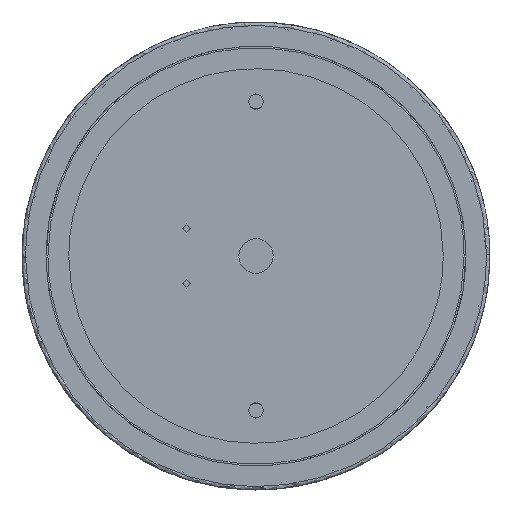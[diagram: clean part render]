
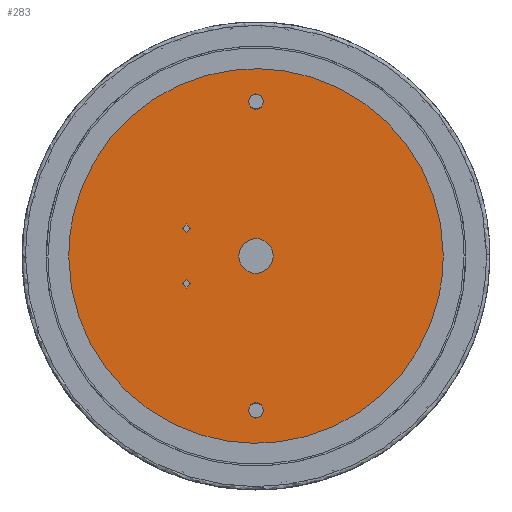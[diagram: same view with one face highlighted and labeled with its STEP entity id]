
A CAD part, left-side view. The second image highlights one B-rep face of the part: STEP entity #283.
In plain terms, the highlighted planar face has unit normal (-1, 0, 0).
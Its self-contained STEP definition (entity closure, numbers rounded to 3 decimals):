
#25=FACE_BOUND('',#562,.T.);
#26=FACE_BOUND('',#563,.T.);
#27=FACE_BOUND('',#564,.T.);
#28=FACE_BOUND('',#565,.T.);
#29=FACE_BOUND('',#566,.T.);
#205=PLANE('',#2198);
#283=ADVANCED_FACE('',(#419,#25,#26,#27,#28,#29),#205,.T.);
#419=FACE_OUTER_BOUND('',#561,.T.);
#561=EDGE_LOOP('',(#871,#872));
#562=EDGE_LOOP('',(#873,#874));
#563=EDGE_LOOP('',(#875,#876));
#564=EDGE_LOOP('',(#877,#878));
#565=EDGE_LOOP('',(#879,#880));
#566=EDGE_LOOP('',(#881,#882));
#871=ORIENTED_EDGE('',*,*,#1463,.F.);
#872=ORIENTED_EDGE('',*,*,#1429,.F.);
#873=ORIENTED_EDGE('',*,*,#1467,.F.);
#874=ORIENTED_EDGE('',*,*,#1433,.F.);
#875=ORIENTED_EDGE('',*,*,#1470,.F.);
#876=ORIENTED_EDGE('',*,*,#1436,.F.);
#877=ORIENTED_EDGE('',*,*,#1491,.F.);
#878=ORIENTED_EDGE('',*,*,#1457,.F.);
#879=ORIENTED_EDGE('',*,*,#1494,.F.);
#880=ORIENTED_EDGE('',*,*,#1460,.F.);
#881=ORIENTED_EDGE('',*,*,#1488,.F.);
#882=ORIENTED_EDGE('',*,*,#1454,.F.);
#1429=EDGE_CURVE('',#1921,#1943,#1702,.T.);
#1433=EDGE_CURVE('',#1922,#1945,#1705,.T.);
#1436=EDGE_CURVE('',#1923,#1947,#1707,.T.);
#1454=EDGE_CURVE('',#1926,#1959,#1719,.T.);
#1457=EDGE_CURVE('',#1924,#1961,#1721,.T.);
#1460=EDGE_CURVE('',#1925,#1963,#1723,.T.);
#1463=EDGE_CURVE('',#1943,#1921,#1724,.T.);
#1467=EDGE_CURVE('',#1945,#1922,#1727,.T.);
#1470=EDGE_CURVE('',#1947,#1923,#1729,.T.);
#1488=EDGE_CURVE('',#1959,#1926,#1741,.T.);
#1491=EDGE_CURVE('',#1961,#1924,#1743,.T.);
#1494=EDGE_CURVE('',#1963,#1925,#1745,.T.);
#1702=(
BOUNDED_CURVE()
B_SPLINE_CURVE(2,(#5714,#5715,#5716,#5717,#5718),.UNSPECIFIED.,.F.,.F.)
B_SPLINE_CURVE_WITH_KNOTS((3,2,3),(0.,89.3,178.6),
 .UNSPECIFIED.)
CURVE()
GEOMETRIC_REPRESENTATION_ITEM()
RATIONAL_B_SPLINE_CURVE((1.,0.707,1.,0.707,1.))
REPRESENTATION_ITEM('')
);
#1705=(
BOUNDED_CURVE()
B_SPLINE_CURVE(2,(#5731,#5732,#5733,#5734,#5735),.UNSPECIFIED.,.F.,.F.)
B_SPLINE_CURVE_WITH_KNOTS((3,2,3),(0.,3.534,7.069),
 .UNSPECIFIED.)
CURVE()
GEOMETRIC_REPRESENTATION_ITEM()
RATIONAL_B_SPLINE_CURVE((1.,0.707,1.,0.707,1.))
REPRESENTATION_ITEM('')
);
#1707=(
BOUNDED_CURVE()
B_SPLINE_CURVE(2,(#5743,#5744,#5745,#5746,#5747),.UNSPECIFIED.,.F.,.F.)
B_SPLINE_CURVE_WITH_KNOTS((3,2,3),(0.,3.534,7.069),
 .UNSPECIFIED.)
CURVE()
GEOMETRIC_REPRESENTATION_ITEM()
RATIONAL_B_SPLINE_CURVE((1.,0.707,1.,0.707,1.))
REPRESENTATION_ITEM('')
);
#1719=(
BOUNDED_CURVE()
B_SPLINE_CURVE(2,(#5815,#5816,#5817,#5818,#5819),.UNSPECIFIED.,.F.,.F.)
B_SPLINE_CURVE_WITH_KNOTS((3,2,3),(0.,7.854,15.708),
 .UNSPECIFIED.)
CURVE()
GEOMETRIC_REPRESENTATION_ITEM()
RATIONAL_B_SPLINE_CURVE((1.,0.707,1.,0.707,1.))
REPRESENTATION_ITEM('')
);
#1721=(
BOUNDED_CURVE()
B_SPLINE_CURVE(2,(#5827,#5828,#5829,#5830,#5831),.UNSPECIFIED.,.F.,.F.)
B_SPLINE_CURVE_WITH_KNOTS((3,2,3),(0.,1.963,3.927),
 .UNSPECIFIED.)
CURVE()
GEOMETRIC_REPRESENTATION_ITEM()
RATIONAL_B_SPLINE_CURVE((1.,0.707,1.,0.707,1.))
REPRESENTATION_ITEM('')
);
#1723=(
BOUNDED_CURVE()
B_SPLINE_CURVE(2,(#5839,#5840,#5841,#5842,#5843),.UNSPECIFIED.,.F.,.F.)
B_SPLINE_CURVE_WITH_KNOTS((3,2,3),(0.,1.963,3.927),
 .UNSPECIFIED.)
CURVE()
GEOMETRIC_REPRESENTATION_ITEM()
RATIONAL_B_SPLINE_CURVE((1.,0.707,1.,0.707,1.))
REPRESENTATION_ITEM('')
);
#1724=(
BOUNDED_CURVE()
B_SPLINE_CURVE(2,(#5848,#5849,#5850,#5851,#5852),.UNSPECIFIED.,.F.,.F.)
B_SPLINE_CURVE_WITH_KNOTS((3,2,3),(178.6,267.899,357.199),
 .UNSPECIFIED.)
CURVE()
GEOMETRIC_REPRESENTATION_ITEM()
RATIONAL_B_SPLINE_CURVE((1.,0.707,1.,0.707,1.))
REPRESENTATION_ITEM('')
);
#1727=(
BOUNDED_CURVE()
B_SPLINE_CURVE(2,(#5865,#5866,#5867,#5868,#5869),.UNSPECIFIED.,.F.,.F.)
B_SPLINE_CURVE_WITH_KNOTS((3,2,3),(7.069,10.603,14.137),
 .UNSPECIFIED.)
CURVE()
GEOMETRIC_REPRESENTATION_ITEM()
RATIONAL_B_SPLINE_CURVE((1.,0.707,1.,0.707,1.))
REPRESENTATION_ITEM('')
);
#1729=(
BOUNDED_CURVE()
B_SPLINE_CURVE(2,(#5877,#5878,#5879,#5880,#5881),.UNSPECIFIED.,.F.,.F.)
B_SPLINE_CURVE_WITH_KNOTS((3,2,3),(7.069,10.603,14.137),
 .UNSPECIFIED.)
CURVE()
GEOMETRIC_REPRESENTATION_ITEM()
RATIONAL_B_SPLINE_CURVE((1.,0.707,1.,0.707,1.))
REPRESENTATION_ITEM('')
);
#1741=(
BOUNDED_CURVE()
B_SPLINE_CURVE(2,(#5949,#5950,#5951,#5952,#5953),.UNSPECIFIED.,.F.,.F.)
B_SPLINE_CURVE_WITH_KNOTS((3,2,3),(15.708,23.562,31.416),
 .UNSPECIFIED.)
CURVE()
GEOMETRIC_REPRESENTATION_ITEM()
RATIONAL_B_SPLINE_CURVE((1.,0.707,1.,0.707,1.))
REPRESENTATION_ITEM('')
);
#1743=(
BOUNDED_CURVE()
B_SPLINE_CURVE(2,(#5961,#5962,#5963,#5964,#5965),.UNSPECIFIED.,.F.,.F.)
B_SPLINE_CURVE_WITH_KNOTS((3,2,3),(3.927,5.89,7.854),
 .UNSPECIFIED.)
CURVE()
GEOMETRIC_REPRESENTATION_ITEM()
RATIONAL_B_SPLINE_CURVE((1.,0.707,1.,0.707,1.))
REPRESENTATION_ITEM('')
);
#1745=(
BOUNDED_CURVE()
B_SPLINE_CURVE(2,(#5973,#5974,#5975,#5976,#5977),.UNSPECIFIED.,.F.,.F.)
B_SPLINE_CURVE_WITH_KNOTS((3,2,3),(3.927,5.89,7.854),
 .UNSPECIFIED.)
CURVE()
GEOMETRIC_REPRESENTATION_ITEM()
RATIONAL_B_SPLINE_CURVE((1.,0.707,1.,0.707,1.))
REPRESENTATION_ITEM('')
);
#1921=VERTEX_POINT('',#5670);
#1922=VERTEX_POINT('',#5671);
#1923=VERTEX_POINT('',#5672);
#1924=VERTEX_POINT('',#5673);
#1925=VERTEX_POINT('',#5674);
#1926=VERTEX_POINT('',#5675);
#1943=VERTEX_POINT('',#5692);
#1945=VERTEX_POINT('',#5694);
#1947=VERTEX_POINT('',#5696);
#1959=VERTEX_POINT('',#5708);
#1961=VERTEX_POINT('',#5710);
#1963=VERTEX_POINT('',#5712);
#2198=AXIS2_PLACEMENT_3D('',#5441,#2230,$);
#2230=DIRECTION('',(-1.,0.,0.));
#5441=CARTESIAN_POINT('',(-8.5,135.812,0.868));
#5670=CARTESIAN_POINT('',(-8.5,124.322,-67.472));
#5671=CARTESIAN_POINT('',(-8.5,69.722,-111.972));
#5672=CARTESIAN_POINT('',(-8.5,69.722,-22.972));
#5673=CARTESIAN_POINT('',(-8.5,87.472,-76.722));
#5674=CARTESIAN_POINT('',(-8.5,87.472,-60.722));
#5675=CARTESIAN_POINT('',(-8.5,72.472,-67.472));
#5692=CARTESIAN_POINT('',(-8.5,10.622,-67.472));
#5694=CARTESIAN_POINT('',(-8.5,65.222,-111.972));
#5696=CARTESIAN_POINT('',(-8.5,65.222,-22.972));
#5708=CARTESIAN_POINT('',(-8.5,62.472,-67.472));
#5710=CARTESIAN_POINT('',(-8.5,87.472,-74.222));
#5712=CARTESIAN_POINT('',(-8.5,87.472,-58.222));
#5714=CARTESIAN_POINT('',(-8.5,124.322,-67.472));
#5715=CARTESIAN_POINT('',(-8.5,124.322,-10.622));
#5716=CARTESIAN_POINT('',(-8.5,67.472,-10.622));
#5717=CARTESIAN_POINT('',(-8.5,10.622,-10.622));
#5718=CARTESIAN_POINT('',(-8.5,10.622,-67.472));
#5731=CARTESIAN_POINT('',(-8.5,69.722,-111.972));
#5732=CARTESIAN_POINT('',(-8.5,69.722,-114.222));
#5733=CARTESIAN_POINT('',(-8.5,67.472,-114.222));
#5734=CARTESIAN_POINT('',(-8.5,65.222,-114.222));
#5735=CARTESIAN_POINT('',(-8.5,65.222,-111.972));
#5743=CARTESIAN_POINT('',(-8.5,69.722,-22.972));
#5744=CARTESIAN_POINT('',(-8.5,69.722,-25.222));
#5745=CARTESIAN_POINT('',(-8.5,67.472,-25.222));
#5746=CARTESIAN_POINT('',(-8.5,65.222,-25.222));
#5747=CARTESIAN_POINT('',(-8.5,65.222,-22.972));
#5815=CARTESIAN_POINT('',(-8.5,72.472,-67.472));
#5816=CARTESIAN_POINT('',(-8.5,72.472,-72.472));
#5817=CARTESIAN_POINT('',(-8.5,67.472,-72.472));
#5818=CARTESIAN_POINT('',(-8.5,62.472,-72.472));
#5819=CARTESIAN_POINT('',(-8.5,62.472,-67.472));
#5827=CARTESIAN_POINT('',(-8.5,87.472,-76.722));
#5828=CARTESIAN_POINT('',(-8.5,86.222,-76.722));
#5829=CARTESIAN_POINT('',(-8.5,86.222,-75.472));
#5830=CARTESIAN_POINT('',(-8.5,86.222,-74.222));
#5831=CARTESIAN_POINT('',(-8.5,87.472,-74.222));
#5839=CARTESIAN_POINT('',(-8.5,87.472,-60.722));
#5840=CARTESIAN_POINT('',(-8.5,86.222,-60.722));
#5841=CARTESIAN_POINT('',(-8.5,86.222,-59.472));
#5842=CARTESIAN_POINT('',(-8.5,86.222,-58.222));
#5843=CARTESIAN_POINT('',(-8.5,87.472,-58.222));
#5848=CARTESIAN_POINT('',(-8.5,10.622,-67.472));
#5849=CARTESIAN_POINT('',(-8.5,10.622,-124.322));
#5850=CARTESIAN_POINT('',(-8.5,67.472,-124.322));
#5851=CARTESIAN_POINT('',(-8.5,124.322,-124.322));
#5852=CARTESIAN_POINT('',(-8.5,124.322,-67.472));
#5865=CARTESIAN_POINT('',(-8.5,65.222,-111.972));
#5866=CARTESIAN_POINT('',(-8.5,65.222,-109.722));
#5867=CARTESIAN_POINT('',(-8.5,67.472,-109.722));
#5868=CARTESIAN_POINT('',(-8.5,69.722,-109.722));
#5869=CARTESIAN_POINT('',(-8.5,69.722,-111.972));
#5877=CARTESIAN_POINT('',(-8.5,65.222,-22.972));
#5878=CARTESIAN_POINT('',(-8.5,65.222,-20.722));
#5879=CARTESIAN_POINT('',(-8.5,67.472,-20.722));
#5880=CARTESIAN_POINT('',(-8.5,69.722,-20.722));
#5881=CARTESIAN_POINT('',(-8.5,69.722,-22.972));
#5949=CARTESIAN_POINT('',(-8.5,62.472,-67.472));
#5950=CARTESIAN_POINT('',(-8.5,62.472,-62.472));
#5951=CARTESIAN_POINT('',(-8.5,67.472,-62.472));
#5952=CARTESIAN_POINT('',(-8.5,72.472,-62.472));
#5953=CARTESIAN_POINT('',(-8.5,72.472,-67.472));
#5961=CARTESIAN_POINT('',(-8.5,87.472,-74.222));
#5962=CARTESIAN_POINT('',(-8.5,88.722,-74.222));
#5963=CARTESIAN_POINT('',(-8.5,88.722,-75.472));
#5964=CARTESIAN_POINT('',(-8.5,88.722,-76.722));
#5965=CARTESIAN_POINT('',(-8.5,87.472,-76.722));
#5973=CARTESIAN_POINT('',(-8.5,87.472,-58.222));
#5974=CARTESIAN_POINT('',(-8.5,88.722,-58.222));
#5975=CARTESIAN_POINT('',(-8.5,88.722,-59.472));
#5976=CARTESIAN_POINT('',(-8.5,88.722,-60.722));
#5977=CARTESIAN_POINT('',(-8.5,87.472,-60.722));
